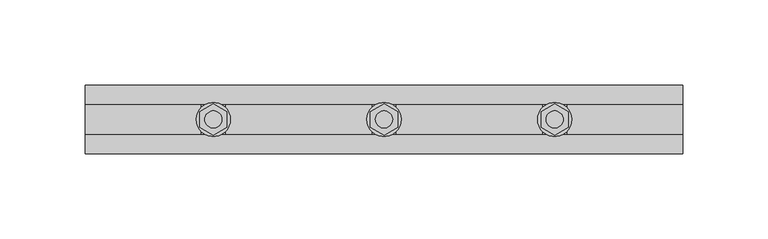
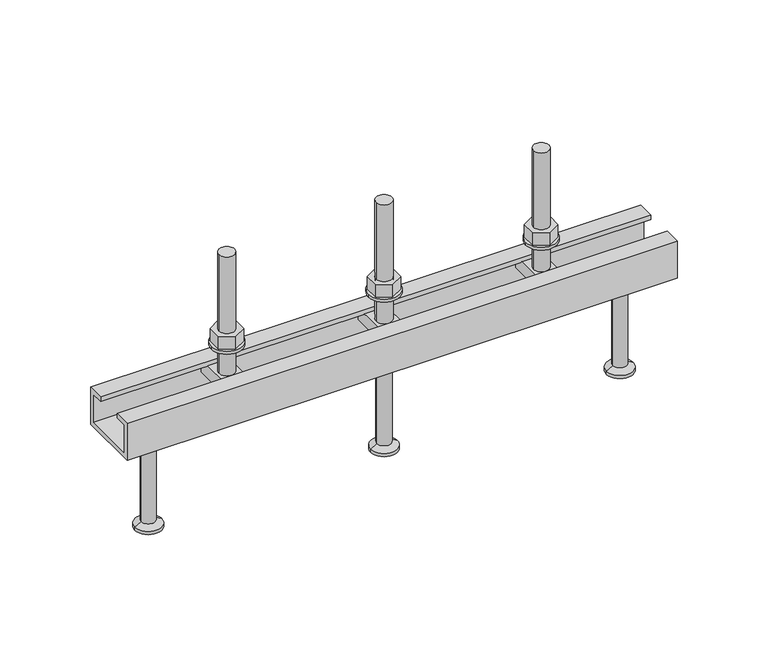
"""IFC4 building model written with IfcOpenShell, lengths in millimetres: fastener geometry, JTA-K JORDAHL® AnchorChannels : JTA-K L=350 mm."""

from ifc_helpers import new_model, si_unit, point, frame, frame_2d, origin, place, context, project, spatial, polyline, circle_curve, trimmed, segment, composite_curve, outline, extrude, source, transform, mapped, element, save
from ifc_brep_helpers import plane_surface, cylinder_surface, revolved_surface, advanced_brep


def fastener_18c1616e(model_context):
    return source(origin(), model_context, "Body", "SolidModel", [
        extrude(outline(polyline([(175.0, -9.2376043), (167.0, -4.6188022), (167.0, 4.6188022), (175.0, 9.2376043), (183.0, 4.6188022), (183.0, -4.6188022), (175.0, -9.2376043)]), holes=[composite_curve([segment(trimmed(circle_curve(frame_2d((175.0, 0.0)), 5.0), [point((170.0, 0.0))], [point((180.0, 0.0))], True, "CARTESIAN"), True, "CONTINUOUS"), segment(trimmed(circle_curve(frame_2d((175.0, 0.0)), 5.0), [point((180.0, 0.0))], [point((170.0, 0.0))], True, "CARTESIAN"), True, "CONTINUOUS")], self_intersect=False)]), frame((0.0, 0.0, 17.0), z_axis=(0.0, 0.0, 1.0), x_axis=(1.0, 0.0, 0.0)), (0.0, 0.0, 1.0), 8.4),
        extrude(outline(composite_curve([segment(trimmed(circle_curve(frame_2d((175.0, 0.0)), 10.0), [point((165.0, 0.0))], [point((185.0, 0.0))], False, "CARTESIAN"), True, "CONTINUOUS"), segment(trimmed(circle_curve(frame_2d((175.0, 0.0)), 10.0), [point((185.0, 0.0))], [point((165.0, 0.0))], False, "CARTESIAN"), True, "CONTINUOUS")], self_intersect=False), holes=[composite_curve([segment(trimmed(circle_curve(frame_2d((175.0, 0.0)), 5.25), [point((169.75, 0.0))], [point((180.25, 0.0))], True, "CARTESIAN"), True, "CONTINUOUS"), segment(trimmed(circle_curve(frame_2d((175.0, 0.0)), 5.25), [point((180.25, 0.0))], [point((169.75, 0.0))], True, "CARTESIAN"), True, "CONTINUOUS")], self_intersect=False)]), frame((0.0, 0.0, 15.0), z_axis=(0.0, 0.0, 1.0), x_axis=(1.0, 0.0, 0.0)), (0.0, 0.0, 1.0), 2.0),
        advanced_brep(
        [(182.0, -16.0, -3.0), (182.0, -16.0, -11.0), (182.0, 16.0, -11.0), (182.0, 16.0, -3.0), (168.0, -16.0, -3.0), (168.0, 16.0, -3.0), (168.0, 16.0, -11.0), (168.0, -16.0, -11.0), (180.0, 0.0, -3.0), (170.0, 0.0, -3.0), (170.0, 0.0, 77.0), (180.0, 0.0, 77.0)],
        [
            (0, 1),
            (1, 2),
            (2, 3),
            (3, 0),
            (4, 5),
            (5, 6),
            (6, 7),
            (7, 4),
            (3, 5),
            (4, 0),
            (8, 9, circle_curve(frame((175.0, 0.0, -3.0), z_axis=(0.0, 0.0, -1.0), x_axis=(1.0, 0.0, 0.0)), 5.0)),
            (9, 8, circle_curve(frame((175.0, 0.0, -3.0), z_axis=(0.0, 0.0, -1.0), x_axis=(1.0, 0.0, 0.0)), 5.0)),
            (2, 6),
            (1, 7),
            (10, 11, circle_curve(frame((175.0, 0.0, 77.0), z_axis=(0.0, 0.0, 1.0), x_axis=(1.0, 0.0, 0.0)), 5.0)),
            (11, 10, circle_curve(frame((175.0, 0.0, 77.0), z_axis=(0.0, 0.0, 1.0), x_axis=(1.0, 0.0, 0.0)), 5.0)),
            (11, 8),
            (9, 10),
        ],
        [
            plane_surface(frame((182.0, 16.0, -3.0), z_axis=(1.0, 0.0, 0.0), x_axis=(0.0, 1.0, 0.0))),
            plane_surface(frame((168.0, 16.0, -3.0), z_axis=(-1.0, 0.0, 0.0), x_axis=(0.0, -1.0, 0.0))),
            plane_surface(frame((182.0, -16.0, -3.0), z_axis=(0.0, 0.0, 1.0), x_axis=(-1.0, 0.0, 0.0))),
            plane_surface(frame((182.0, 16.0, -3.0), z_axis=(0.0, 1.0, 0.0), x_axis=(-1.0, 0.0, 0.0))),
            plane_surface(frame((182.0, 16.0, -11.0), z_axis=(0.0, 0.0, -1.0), x_axis=(-1.0, 0.0, 0.0))),
            plane_surface(frame((182.0, -16.0, -11.0), z_axis=(0.0, -1.0, 0.0), x_axis=(-1.0, 0.0, 0.0))),
            plane_surface(frame((180.0, 0.0, 77.0), z_axis=(0.0, 0.0, 1.0), x_axis=(0.0, -1.0, 0.0))),
            cylinder_surface(frame((175.0, 0.0, -3.0), z_axis=(0.0, 0.0, 1.0), x_axis=(1.0, 0.0, 0.0)), 5.0),
        ],
        [
            (0, [[1, 2, 3, 4]]),
            (1, [[5, 6, 7, 8]]),
            (2, [[9, -5, 10, -4], [11, 12]]),
            (3, [[13, -6, -9, -3]]),
            (4, [[14, -7, -13, -2]]),
            (5, [[-10, -8, -14, -1]]),
            (6, [[15, 16]]),
            (7, [[17, -12, 18, -16]]),
            (7, [[-18, -11, -17, -15]]),
        ],
    ),
        advanced_brep(
        [(175.0, 0.0, -25.0), (161.5, 0.0, -25.0), (188.5, 0.0, -25.0), (166.5, 0.0, -90.0), (175.0, 0.0, -90.0), (183.5, 0.0, -90.0), (166.5, 0.0, -88.0), (183.5, 0.0, -88.0), (170.5, 0.0, -85.6905989), (179.5, 0.0, -85.6905989), (170.5, 0.0, -27.5), (179.5, 0.0, -27.5)],
        [
            (0, 1),
            (1, 2, circle_curve(frame((175.0, 0.0, -25.0), z_axis=(0.0, 0.0, 1.0), x_axis=(1.0, 0.0, 0.0)), 13.5)),
            (2, 0),
            (2, 1, circle_curve(frame((175.0, 0.0, -25.0), z_axis=(0.0, 0.0, 1.0), x_axis=(1.0, 0.0, 0.0)), 13.5)),
            (3, 4),
            (4, 5),
            (5, 3, circle_curve(frame((175.0, 0.0, -90.0), z_axis=(0.0, 0.0, -1.0), x_axis=(1.0, 0.0, 0.0)), 8.5)),
            (3, 5, circle_curve(frame((175.0, 0.0, -90.0), z_axis=(0.0, 0.0, -1.0), x_axis=(1.0, 0.0, 0.0)), 8.5)),
            (6, 3),
            (5, 7),
            (7, 6, circle_curve(frame((175.0, 0.0, -88.0), z_axis=(0.0, 0.0, -1.0), x_axis=(1.0, 0.0, 0.0)), 8.5)),
            (6, 7, circle_curve(frame((175.0, 0.0, -88.0), z_axis=(0.0, 0.0, -1.0), x_axis=(1.0, 0.0, 0.0)), 8.5)),
            (8, 6),
            (7, 9),
            (9, 8, circle_curve(frame((175.0, 0.0, -85.6905989), z_axis=(0.0, 0.0, -1.0), x_axis=(1.0, 0.0, 0.0)), 4.5)),
            (8, 9, circle_curve(frame((175.0, 0.0, -85.6905989), z_axis=(0.0, 0.0, -1.0), x_axis=(1.0, 0.0, 0.0)), 4.5)),
            (10, 8),
            (9, 11),
            (11, 10, circle_curve(frame((175.0, 0.0, -27.5), z_axis=(0.0, 0.0, -1.0), x_axis=(1.0, 0.0, 0.0)), 4.5)),
            (10, 11, circle_curve(frame((175.0, 0.0, -27.5), z_axis=(0.0, 0.0, -1.0), x_axis=(1.0, 0.0, 0.0)), 4.5)),
            (1, 10),
            (11, 2),
        ],
        [
            plane_surface(frame((175.0, 0.0, -25.0), z_axis=(0.0, 0.0, 1.0), x_axis=(1.0, 0.0, 0.0))),
            plane_surface(frame((175.0, 0.0, -90.0), z_axis=(0.0, 0.0, -1.0), x_axis=(1.0, 0.0, 0.0))),
            cylinder_surface(frame((175.0, 0.0, 2279.3150031), z_axis=(0.0, 0.0, 1.0), x_axis=(1.0, 0.0, 0.0)), 8.5),
            revolved_surface(polyline([(183.5, 0.0, -88.0), (179.5, 0.0, -85.6905989)]), (175.0, 0.0, 2279.3150031), (0.0, 0.0, 1.0)),
            cylinder_surface(frame((175.0, 0.0, 2279.3150031), z_axis=(0.0, 0.0, 1.0), x_axis=(1.0, 0.0, 0.0)), 4.5),
            revolved_surface(polyline([(179.5, 0.0, -27.5), (188.5, 0.0, -25.0)]), (175.0, 0.0, 2279.3150031), (0.0, 0.0, 1.0)),
        ],
        [
            (0, [[1, 2, 3]]),
            (0, [[-3, 4, -1]]),
            (1, [[5, 6, 7]]),
            (1, [[-6, -5, 8]]),
            (2, [[9, -7, 10, 11]]),
            (2, [[-10, -8, -9, 12]]),
            (3, [[13, -11, 14, 15]]),
            (3, [[-14, -12, -13, 16]]),
            (4, [[17, -15, 18, 19]]),
            (4, [[-18, -16, -17, 20]]),
            (5, [[21, -19, 22, -2]]),
            (5, [[-22, -20, -21, -4]]),
        ],
    ),
        extrude(outline(polyline([(275.0, -9.2376043), (267.0, -4.6188022), (267.0, 4.6188022), (275.0, 9.2376043), (283.0, 4.6188022), (283.0, -4.6188022), (275.0, -9.2376043)]), holes=[composite_curve([segment(trimmed(circle_curve(frame_2d((275.0, 0.0)), 5.0), [point((270.0, 0.0))], [point((280.0, 0.0))], True, "CARTESIAN"), True, "CONTINUOUS"), segment(trimmed(circle_curve(frame_2d((275.0, 0.0)), 5.0), [point((280.0, 0.0))], [point((270.0, 0.0))], True, "CARTESIAN"), True, "CONTINUOUS")], self_intersect=False)]), frame((0.0, 0.0, 17.0), z_axis=(0.0, 0.0, 1.0), x_axis=(1.0, 0.0, 0.0)), (0.0, 0.0, 1.0), 8.4),
        extrude(outline(composite_curve([segment(trimmed(circle_curve(frame_2d((275.0, 0.0)), 10.0), [point((265.0, 0.0))], [point((285.0, 0.0))], False, "CARTESIAN"), True, "CONTINUOUS"), segment(trimmed(circle_curve(frame_2d((275.0, 0.0)), 10.0), [point((285.0, 0.0))], [point((265.0, 0.0))], False, "CARTESIAN"), True, "CONTINUOUS")], self_intersect=False), holes=[composite_curve([segment(trimmed(circle_curve(frame_2d((275.0, 0.0)), 5.25), [point((269.75, 0.0))], [point((280.25, 0.0))], True, "CARTESIAN"), True, "CONTINUOUS"), segment(trimmed(circle_curve(frame_2d((275.0, 0.0)), 5.25), [point((280.25, 0.0))], [point((269.75, 0.0))], True, "CARTESIAN"), True, "CONTINUOUS")], self_intersect=False)]), frame((0.0, 0.0, 15.0), z_axis=(0.0, 0.0, 1.0), x_axis=(1.0, 0.0, 0.0)), (0.0, 0.0, 1.0), 2.0),
        extrude(outline(polyline([(75.0, -9.2376043), (67.0, -4.6188022), (67.0, 4.6188022), (75.0, 9.2376043), (83.0, 4.6188022), (83.0, -4.6188022), (75.0, -9.2376043)]), holes=[composite_curve([segment(trimmed(circle_curve(frame_2d((75.0, 0.0)), 5.0), [point((70.0, 0.0))], [point((80.0, 0.0))], True, "CARTESIAN"), True, "CONTINUOUS"), segment(trimmed(circle_curve(frame_2d((75.0, 0.0)), 5.0), [point((80.0, 0.0))], [point((70.0, 0.0))], True, "CARTESIAN"), True, "CONTINUOUS")], self_intersect=False)]), frame((0.0, 0.0, 17.0), z_axis=(0.0, 0.0, 1.0), x_axis=(1.0, 0.0, 0.0)), (0.0, 0.0, 1.0), 8.4),
        extrude(outline(composite_curve([segment(trimmed(circle_curve(frame_2d((75.0, 0.0)), 10.0), [point((65.0, 0.0))], [point((85.0, 0.0))], False, "CARTESIAN"), True, "CONTINUOUS"), segment(trimmed(circle_curve(frame_2d((75.0, 0.0)), 10.0), [point((85.0, 0.0))], [point((65.0, 0.0))], False, "CARTESIAN"), True, "CONTINUOUS")], self_intersect=False), holes=[composite_curve([segment(trimmed(circle_curve(frame_2d((75.0, 0.0)), 5.25), [point((69.75, 0.0))], [point((80.25, 0.0))], True, "CARTESIAN"), True, "CONTINUOUS"), segment(trimmed(circle_curve(frame_2d((75.0, 0.0)), 5.25), [point((80.25, 0.0))], [point((69.75, 0.0))], True, "CARTESIAN"), True, "CONTINUOUS")], self_intersect=False)]), frame((0.0, 0.0, 15.0), z_axis=(0.0, 0.0, 1.0), x_axis=(1.0, 0.0, 0.0)), (0.0, 0.0, 1.0), 2.0),
        advanced_brep(
        [(282.0, -16.0, -3.0), (282.0, -16.0, -11.0), (282.0, 16.0, -11.0), (282.0, 16.0, -3.0), (268.0, -16.0, -3.0), (268.0, 16.0, -3.0), (268.0, 16.0, -11.0), (268.0, -16.0, -11.0), (280.0, 0.0, -3.0), (270.0, 0.0, -3.0), (270.0, 0.0, 77.0), (280.0, 0.0, 77.0)],
        [
            (0, 1),
            (1, 2),
            (2, 3),
            (3, 0),
            (4, 5),
            (5, 6),
            (6, 7),
            (7, 4),
            (3, 5),
            (4, 0),
            (8, 9, circle_curve(frame((275.0, 0.0, -3.0), z_axis=(0.0, 0.0, -1.0), x_axis=(1.0, 0.0, 0.0)), 5.0)),
            (9, 8, circle_curve(frame((275.0, 0.0, -3.0), z_axis=(0.0, 0.0, -1.0), x_axis=(1.0, 0.0, 0.0)), 5.0)),
            (2, 6),
            (1, 7),
            (10, 11, circle_curve(frame((275.0, 0.0, 77.0), z_axis=(0.0, 0.0, 1.0), x_axis=(1.0, 0.0, 0.0)), 5.0)),
            (11, 10, circle_curve(frame((275.0, 0.0, 77.0), z_axis=(0.0, 0.0, 1.0), x_axis=(1.0, 0.0, 0.0)), 5.0)),
            (11, 8),
            (9, 10),
        ],
        [
            plane_surface(frame((282.0, 16.0, -3.0), z_axis=(1.0, 0.0, 0.0), x_axis=(0.0, 1.0, 0.0))),
            plane_surface(frame((268.0, 16.0, -3.0), z_axis=(-1.0, 0.0, 0.0), x_axis=(0.0, -1.0, 0.0))),
            plane_surface(frame((282.0, -16.0, -3.0), z_axis=(0.0, 0.0, 1.0), x_axis=(-1.0, 0.0, 0.0))),
            plane_surface(frame((282.0, 16.0, -3.0), z_axis=(0.0, 1.0, 0.0), x_axis=(-1.0, 0.0, 0.0))),
            plane_surface(frame((282.0, 16.0, -11.0), z_axis=(0.0, 0.0, -1.0), x_axis=(-1.0, 0.0, 0.0))),
            plane_surface(frame((282.0, -16.0, -11.0), z_axis=(0.0, -1.0, 0.0), x_axis=(-1.0, 0.0, 0.0))),
            plane_surface(frame((280.0, 0.0, 77.0), z_axis=(0.0, 0.0, 1.0), x_axis=(0.0, -1.0, 0.0))),
            cylinder_surface(frame((275.0, 0.0, -3.0), z_axis=(0.0, 0.0, 1.0), x_axis=(1.0, 0.0, 0.0)), 5.0),
        ],
        [
            (0, [[1, 2, 3, 4]]),
            (1, [[5, 6, 7, 8]]),
            (2, [[9, -5, 10, -4], [11, 12]]),
            (3, [[13, -6, -9, -3]]),
            (4, [[14, -7, -13, -2]]),
            (5, [[-10, -8, -14, -1]]),
            (6, [[15, 16]]),
            (7, [[17, -12, 18, -16]]),
            (7, [[-18, -11, -17, -15]]),
        ],
    ),
        advanced_brep(
        [(82.0, -16.0, -3.0), (82.0, -16.0, -11.0), (82.0, 16.0, -11.0), (82.0, 16.0, -3.0), (68.0, -16.0, -3.0), (68.0, 16.0, -3.0), (68.0, 16.0, -11.0), (68.0, -16.0, -11.0), (80.0, 0.0, -3.0), (70.0, 0.0, -3.0), (70.0, 0.0, 77.0), (80.0, 0.0, 77.0)],
        [
            (0, 1),
            (1, 2),
            (2, 3),
            (3, 0),
            (4, 5),
            (5, 6),
            (6, 7),
            (7, 4),
            (3, 5),
            (4, 0),
            (8, 9, circle_curve(frame((75.0, 0.0, -3.0), z_axis=(0.0, 0.0, -1.0), x_axis=(1.0, 0.0, 0.0)), 5.0)),
            (9, 8, circle_curve(frame((75.0, 0.0, -3.0), z_axis=(0.0, 0.0, -1.0), x_axis=(1.0, 0.0, 0.0)), 5.0)),
            (2, 6),
            (1, 7),
            (10, 11, circle_curve(frame((75.0, 0.0, 77.0), z_axis=(0.0, 0.0, 1.0), x_axis=(1.0, 0.0, 0.0)), 5.0)),
            (11, 10, circle_curve(frame((75.0, 0.0, 77.0), z_axis=(0.0, 0.0, 1.0), x_axis=(1.0, 0.0, 0.0)), 5.0)),
            (11, 8),
            (9, 10),
        ],
        [
            plane_surface(frame((82.0, 16.0, -3.0), z_axis=(1.0, 0.0, 0.0), x_axis=(0.0, 1.0, 0.0))),
            plane_surface(frame((68.0, 16.0, -3.0), z_axis=(-1.0, 0.0, 0.0), x_axis=(0.0, -1.0, 0.0))),
            plane_surface(frame((82.0, -16.0, -3.0), z_axis=(0.0, 0.0, 1.0), x_axis=(-1.0, 0.0, 0.0))),
            plane_surface(frame((82.0, 16.0, -3.0), z_axis=(0.0, 1.0, 0.0), x_axis=(-1.0, 0.0, 0.0))),
            plane_surface(frame((82.0, 16.0, -11.0), z_axis=(0.0, 0.0, -1.0), x_axis=(-1.0, 0.0, 0.0))),
            plane_surface(frame((82.0, -16.0, -11.0), z_axis=(0.0, -1.0, 0.0), x_axis=(-1.0, 0.0, 0.0))),
            plane_surface(frame((80.0, 0.0, 77.0), z_axis=(0.0, 0.0, 1.0), x_axis=(0.0, -1.0, 0.0))),
            cylinder_surface(frame((75.0, 0.0, -3.0), z_axis=(0.0, 0.0, 1.0), x_axis=(1.0, 0.0, 0.0)), 5.0),
        ],
        [
            (0, [[1, 2, 3, 4]]),
            (1, [[5, 6, 7, 8]]),
            (2, [[9, -5, 10, -4], [11, 12]]),
            (3, [[13, -6, -9, -3]]),
            (4, [[14, -7, -13, -2]]),
            (5, [[-10, -8, -14, -1]]),
            (6, [[15, 16]]),
            (7, [[17, -12, 18, -16]]),
            (7, [[-18, -11, -17, -15]]),
        ],
    ),
        advanced_brep(
        [(325.0, 0.0, -25.0), (311.5, 0.0, -25.0), (338.5, 0.0, -25.0), (316.5, 0.0, -90.0), (325.0, 0.0, -90.0), (333.5, 0.0, -90.0), (316.5, 0.0, -88.0), (333.5, 0.0, -88.0), (320.5, 0.0, -85.6905989), (329.5, 0.0, -85.6905989), (320.5, 0.0, -27.5), (329.5, 0.0, -27.5)],
        [
            (0, 1),
            (1, 2, circle_curve(frame((325.0, 0.0, -25.0), z_axis=(0.0, 0.0, 1.0), x_axis=(1.0, 0.0, 0.0)), 13.5)),
            (2, 0),
            (2, 1, circle_curve(frame((325.0, 0.0, -25.0), z_axis=(0.0, 0.0, 1.0), x_axis=(1.0, 0.0, 0.0)), 13.5)),
            (3, 4),
            (4, 5),
            (5, 3, circle_curve(frame((325.0, 0.0, -90.0), z_axis=(0.0, 0.0, -1.0), x_axis=(1.0, 0.0, 0.0)), 8.5)),
            (3, 5, circle_curve(frame((325.0, 0.0, -90.0), z_axis=(0.0, 0.0, -1.0), x_axis=(1.0, 0.0, 0.0)), 8.5)),
            (6, 3),
            (5, 7),
            (7, 6, circle_curve(frame((325.0, 0.0, -88.0), z_axis=(0.0, 0.0, -1.0), x_axis=(1.0, 0.0, 0.0)), 8.5)),
            (6, 7, circle_curve(frame((325.0, 0.0, -88.0), z_axis=(0.0, 0.0, -1.0), x_axis=(1.0, 0.0, 0.0)), 8.5)),
            (8, 6),
            (7, 9),
            (9, 8, circle_curve(frame((325.0, 0.0, -85.6905989), z_axis=(0.0, 0.0, -1.0), x_axis=(1.0, 0.0, 0.0)), 4.5)),
            (8, 9, circle_curve(frame((325.0, 0.0, -85.6905989), z_axis=(0.0, 0.0, -1.0), x_axis=(1.0, 0.0, 0.0)), 4.5)),
            (10, 8),
            (9, 11),
            (11, 10, circle_curve(frame((325.0, 0.0, -27.5), z_axis=(0.0, 0.0, -1.0), x_axis=(1.0, 0.0, 0.0)), 4.5)),
            (10, 11, circle_curve(frame((325.0, 0.0, -27.5), z_axis=(0.0, 0.0, -1.0), x_axis=(1.0, 0.0, 0.0)), 4.5)),
            (1, 10),
            (11, 2),
        ],
        [
            plane_surface(frame((325.0, 0.0, -25.0), z_axis=(0.0, 0.0, 1.0), x_axis=(1.0, 0.0, 0.0))),
            plane_surface(frame((325.0, 0.0, -90.0), z_axis=(0.0, 0.0, -1.0), x_axis=(1.0, 0.0, 0.0))),
            cylinder_surface(frame((325.0, 0.0, 2279.3150031), z_axis=(0.0, 0.0, 1.0), x_axis=(1.0, 0.0, 0.0)), 8.5),
            revolved_surface(polyline([(333.5, 0.0, -88.0), (329.5, 0.0, -85.6905989)]), (325.0, 0.0, 2279.3150031), (0.0, 0.0, 1.0)),
            cylinder_surface(frame((325.0, 0.0, 2279.3150031), z_axis=(0.0, 0.0, 1.0), x_axis=(1.0, 0.0, 0.0)), 4.5),
            revolved_surface(polyline([(329.5, 0.0, -27.5), (338.5, 0.0, -25.0)]), (325.0, 0.0, 2279.3150031), (0.0, 0.0, 1.0)),
        ],
        [
            (0, [[1, 2, 3]]),
            (0, [[-3, 4, -1]]),
            (1, [[5, 6, 7]]),
            (1, [[-6, -5, 8]]),
            (2, [[9, -7, 10, 11]]),
            (2, [[-10, -8, -9, 12]]),
            (3, [[13, -11, 14, 15]]),
            (3, [[-14, -12, -13, 16]]),
            (4, [[17, -15, 18, 19]]),
            (4, [[-18, -16, -17, 20]]),
            (5, [[21, -19, 22, -2]]),
            (5, [[-22, -20, -21, -4]]),
        ],
    ),
        advanced_brep(
        [(25.0, 0.0, -25.0), (11.5, 0.0, -25.0), (38.5, 0.0, -25.0), (16.5, 0.0, -90.0), (25.0, 0.0, -90.0), (33.5, 0.0, -90.0), (16.5, 0.0, -88.0), (33.5, 0.0, -88.0), (20.5, 0.0, -85.6905989), (29.5, 0.0, -85.6905989), (20.5, 0.0, -27.5), (29.5, 0.0, -27.5)],
        [
            (0, 1),
            (1, 2, circle_curve(frame((25.0, 0.0, -25.0), z_axis=(0.0, 0.0, 1.0), x_axis=(1.0, 0.0, 0.0)), 13.5)),
            (2, 0),
            (2, 1, circle_curve(frame((25.0, 0.0, -25.0), z_axis=(0.0, 0.0, 1.0), x_axis=(1.0, 0.0, 0.0)), 13.5)),
            (3, 4),
            (4, 5),
            (5, 3, circle_curve(frame((25.0, 0.0, -90.0), z_axis=(0.0, 0.0, -1.0), x_axis=(1.0, 0.0, 0.0)), 8.5)),
            (3, 5, circle_curve(frame((25.0, 0.0, -90.0), z_axis=(0.0, 0.0, -1.0), x_axis=(1.0, 0.0, 0.0)), 8.5)),
            (6, 3),
            (5, 7),
            (7, 6, circle_curve(frame((25.0, 0.0, -88.0), z_axis=(0.0, 0.0, -1.0), x_axis=(1.0, 0.0, 0.0)), 8.5)),
            (6, 7, circle_curve(frame((25.0, 0.0, -88.0), z_axis=(0.0, 0.0, -1.0), x_axis=(1.0, 0.0, 0.0)), 8.5)),
            (8, 6),
            (7, 9),
            (9, 8, circle_curve(frame((25.0, 0.0, -85.6905989), z_axis=(0.0, 0.0, -1.0), x_axis=(1.0, 0.0, 0.0)), 4.5)),
            (8, 9, circle_curve(frame((25.0, 0.0, -85.6905989), z_axis=(0.0, 0.0, -1.0), x_axis=(1.0, 0.0, 0.0)), 4.5)),
            (10, 8),
            (9, 11),
            (11, 10, circle_curve(frame((25.0, 0.0, -27.5), z_axis=(0.0, 0.0, -1.0), x_axis=(1.0, 0.0, 0.0)), 4.5)),
            (10, 11, circle_curve(frame((25.0, 0.0, -27.5), z_axis=(0.0, 0.0, -1.0), x_axis=(1.0, 0.0, 0.0)), 4.5)),
            (1, 10),
            (11, 2),
        ],
        [
            plane_surface(frame((25.0, 0.0, -25.0), z_axis=(0.0, 0.0, 1.0), x_axis=(1.0, 0.0, 0.0))),
            plane_surface(frame((25.0, 0.0, -90.0), z_axis=(0.0, 0.0, -1.0), x_axis=(1.0, 0.0, 0.0))),
            cylinder_surface(frame((25.0, 0.0, 2279.3150031), z_axis=(0.0, 0.0, 1.0), x_axis=(1.0, 0.0, 0.0)), 8.5),
            revolved_surface(polyline([(33.5, 0.0, -88.0), (29.5, 0.0, -85.6905989)]), (25.0, 0.0, 2279.3150031), (0.0, 0.0, 1.0)),
            cylinder_surface(frame((25.0, 0.0, 2279.3150031), z_axis=(0.0, 0.0, 1.0), x_axis=(1.0, 0.0, 0.0)), 4.5),
            revolved_surface(polyline([(29.5, 0.0, -27.5), (38.5, 0.0, -25.0)]), (25.0, 0.0, 2279.3150031), (0.0, 0.0, 1.0)),
        ],
        [
            (0, [[1, 2, 3]]),
            (0, [[-3, 4, -1]]),
            (1, [[5, 6, 7]]),
            (1, [[-6, -5, 8]]),
            (2, [[9, -7, 10, 11]]),
            (2, [[-10, -8, -9, 12]]),
            (3, [[13, -11, 14, 15]]),
            (3, [[-14, -12, -13, 16]]),
            (4, [[17, -15, 18, 19]]),
            (4, [[-18, -16, -17, 20]]),
            (5, [[21, -19, 22, -2]]),
            (5, [[-22, -20, -21, -4]]),
        ],
    ),
        extrude(outline(polyline([(-20.0, 0.0), (-9.0, 0.0), (-9.0, -3.0), (-17.0, -3.0), (-17.0, -22.0), (17.0, -22.0), (17.0, -3.0), (9.0, -3.0), (9.0, 0.0), (20.0, 0.0), (20.0, -25.0), (-20.0, -25.0), (-20.0, 0.0)])), frame((0.0, 0.0, 0.0), z_axis=(1.0, 0.0, 0.0), x_axis=(0.0, 1.0, 0.0)), (0.0, 0.0, 1.0), 350.0),
    ])


if __name__ == "__main__":
    model = new_model("IFC4")
    model_context = context("Model", 3, world=origin())
    ifc_project = project(units=[si_unit("LENGTHUNIT", "METRE", prefix="MILLI")], contexts=[model_context])
    site = spatial("IfcSite", under=ifc_project)
    building = spatial("IfcBuilding", under=site)
    placement = place(None, origin())
    fastener_shape = fastener_18c1616e(model_context)
    element("IfcFastener", 1, ObjectType="JTA-K JORDAHL® AnchorChannels : JTA-K L=350 mm", at=placement, inside=building, context=model_context, shape_type="MappedRepresentation", body=[
        mapped(fastener_shape, transform((0.0, 0.0, 0.0), x_axis=(1.0, 0.0, 0.0), y_axis=(0.0, 1.0, 0.0), z_axis=(0.0, 0.0, 1.0))),
    ])
    save(model, "model.ifc")
